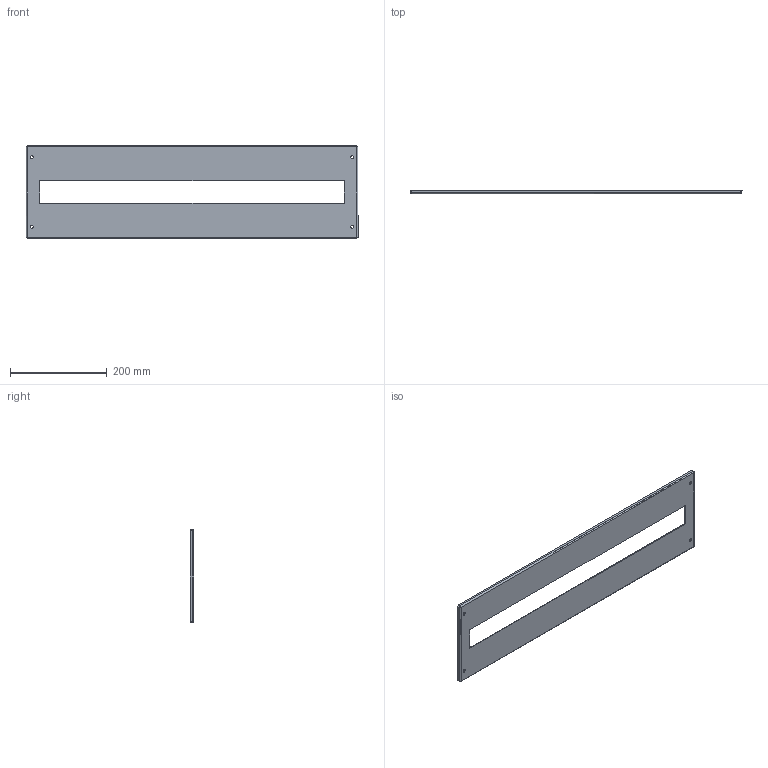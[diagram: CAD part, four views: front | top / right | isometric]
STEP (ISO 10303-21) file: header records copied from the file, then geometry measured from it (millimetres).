
FILE_DESCRIPTION (( 'STEP AP203' ), '1' );
FILE_NAME ('ÏàíåëüÄëÿÌîäóëüíîãîÎáîðóäîâàíèÿ200x800-36(259306).STEP', '2018-08-03T10:45:57', ( '' ), ( '' ), 'SwSTEP 2.0', 'SolidWorks 2018', '' );
FILE_SCHEMA (( 'CONFIG_CONTROL_DESIGN' ));
Length unit declared in the file: millimetre
Products named in the file (2): ÏàíåëüÄëÿÌîäóëüíîãîÎáîðóäîâàíèÿ200x800-36(259306)
Bounding box: 686 x 7 x 192 mm (x, y, z)
Volume: 218737.2 mm3; surface area: 225188.4 mm2
Topology: 1 solids, 1 shells, 50 faces, 112 edges, 64 vertices
Faces by surface type: plane 26, cylinder 16, bspline 8
Entity records: 1843 total; most frequent: CARTESIAN_POINT 640, ORIENTED_EDGE 224, DIRECTION 188, EDGE_CURVE 112, LINE 68, VECTOR 68, VERTEX_POINT 64, AXIS2_PLACEMENT_3D 60
